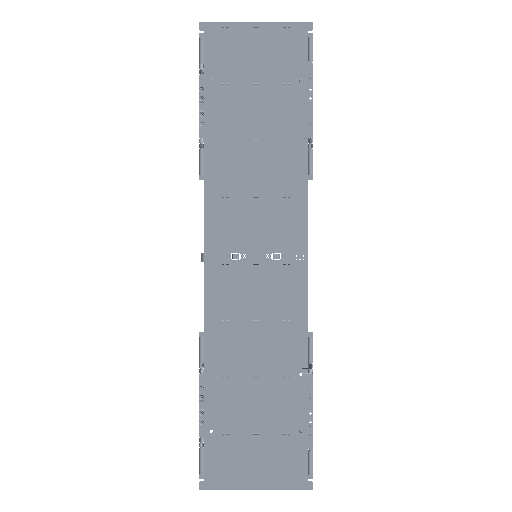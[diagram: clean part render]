
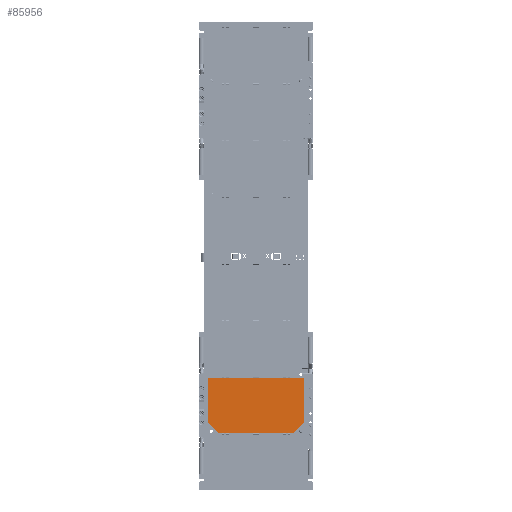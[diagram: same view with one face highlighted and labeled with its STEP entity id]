
A CAD part, front view. The second image highlights one B-rep face of the part: STEP entity #85956.
In plain terms, the highlighted planar face has unit normal (0, -1, 0).
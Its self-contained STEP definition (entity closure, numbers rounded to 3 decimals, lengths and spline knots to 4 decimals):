
#433 = LINE ( 'NONE', #141476, #120442 ) ;
#4248 = LINE ( 'NONE', #5777, #17883 ) ;
#5777 = CARTESIAN_POINT ( 'NONE',  ( -1.0605, -0.1227, -5.0315 ) ) ;
#7358 = ORIENTED_EDGE ( 'NONE', *, *, #10766, .F. ) ;
#8400 = PLANE ( 'NONE',  #240439 ) ;
#8740 = CARTESIAN_POINT ( 'NONE',  ( -0.841, -0.1227, -3.4685 ) ) ;
#8794 = DIRECTION ( 'NONE',  ( 0.707, 0., -0.707 ) ) ;
#10766 = EDGE_CURVE ( 'NONE', #139326, #257492, #116293, .T. ) ;
#12982 = CARTESIAN_POINT ( 'NONE',  ( -1.3605, -0.1227, -3.4685 ) ) ;
#14040 = ORIENTED_EDGE ( 'NONE', *, *, #164501, .T. ) ;
#16937 = EDGE_LOOP ( 'NONE', ( #55355, #93876, #249874, #66424, #90722, #30484, #278217, #7358, #66343, #14040, #274322, #140389, #120001, #292386 ) ) ;
#17883 = VECTOR ( 'NONE', #8794, 39.3701 ) ;
#19030 = DIRECTION ( 'NONE',  ( 1., 0., 0. ) ) ;
#21480 = CARTESIAN_POINT ( 'NONE',  ( 1.3605, -0.1227, -3.4685 ) ) ;
#23413 = LINE ( 'NONE', #94675, #287557 ) ;
#26889 = CARTESIAN_POINT ( 'NONE',  ( -1.3605, -0.1227, -4.7315 ) ) ;
#27648 = LINE ( 'NONE', #267921, #217608 ) ;
#30484 = ORIENTED_EDGE ( 'NONE', *, *, #305788, .T. ) ;
#31683 = CARTESIAN_POINT ( 'NONE',  ( 0.9745, -0.1227, -3.4685 ) ) ;
#35241 = LINE ( 'NONE', #108048, #284550 ) ;
#36666 = VECTOR ( 'NONE', #68982, 39.3701 ) ;
#37487 = VERTEX_POINT ( 'NONE', #189625 ) ;
#38967 = EDGE_CURVE ( 'NONE', #171020, #146179, #169483, .T. ) ;
#48594 = VECTOR ( 'NONE', #146297, 39.3701 ) ;
#49890 = CARTESIAN_POINT ( 'NONE',  ( 1.3605, -0.1227, -3.4685 ) ) ;
#54743 = CARTESIAN_POINT ( 'NONE',  ( 1.3605, -0.1227, -3.4685 ) ) ;
#55355 = ORIENTED_EDGE ( 'NONE', *, *, #38967, .T. ) ;
#55739 = EDGE_CURVE ( 'NONE', #86696, #83251, #90631, .T. ) ;
#65890 = CARTESIAN_POINT ( 'NONE',  ( -0.7745, -0.1227, -3.4685 ) ) ;
#66046 = EDGE_CURVE ( 'NONE', #251390, #232687, #92630, .T. ) ;
#66343 = ORIENTED_EDGE ( 'NONE', *, *, #79257, .F. ) ;
#66424 = ORIENTED_EDGE ( 'NONE', *, *, #219712, .T. ) ;
#67499 = EDGE_CURVE ( 'NONE', #257492, #236263, #276458, .T. ) ;
#68982 = DIRECTION ( 'NONE',  ( 1., 0., 0. ) ) ;
#71302 = VERTEX_POINT ( 'NONE', #180389 ) ;
#73446 = VERTEX_POINT ( 'NONE', #288138 ) ;
#74989 = EDGE_CURVE ( 'NONE', #71302, #83251, #35241, .T. ) ;
#79257 = EDGE_CURVE ( 'NONE', #91990, #139326, #27648, .T. ) ;
#83251 = VERTEX_POINT ( 'NONE', #8740 ) ;
#85956 = ADVANCED_FACE ( 'NONE', ( #222355 ), #8400, .T. ) ;
#86696 = VERTEX_POINT ( 'NONE', #196135 ) ;
#90631 = LINE ( 'NONE', #65890, #36666 ) ;
#90722 = ORIENTED_EDGE ( 'NONE', *, *, #66046, .T. ) ;
#91990 = VERTEX_POINT ( 'NONE', #293713 ) ;
#92630 = LINE ( 'NONE', #190290, #136929 ) ;
#93876 = ORIENTED_EDGE ( 'NONE', *, *, #103545, .T. ) ;
#94675 = CARTESIAN_POINT ( 'NONE',  ( 1.3605, -0.1227, -3.4685 ) ) ;
#101753 = CARTESIAN_POINT ( 'NONE',  ( 0.841, -0.1227, -3.4685 ) ) ;
#103545 = EDGE_CURVE ( 'NONE', #146179, #212399, #4248, .T. ) ;
#108048 = CARTESIAN_POINT ( 'NONE',  ( -0.7745, -0.1227, -3.4685 ) ) ;
#115608 = CARTESIAN_POINT ( 'NONE',  ( 0.908, -0.1227, -3.4685 ) ) ;
#116293 = LINE ( 'NONE', #210891, #205659 ) ;
#120001 = ORIENTED_EDGE ( 'NONE', *, *, #232198, .T. ) ;
#120038 = LINE ( 'NONE', #262720, #48594 ) ;
#120442 = VECTOR ( 'NONE', #281147, 39.3701 ) ;
#122185 = DIRECTION ( 'NONE',  ( 1., 0., 0. ) ) ;
#124472 = CARTESIAN_POINT ( 'NONE',  ( -1.3605, -0.1227, -4.7315 ) ) ;
#128215 = EDGE_CURVE ( 'NONE', #37487, #171020, #261779, .T. ) ;
#136929 = VECTOR ( 'NONE', #286519, 39.3701 ) ;
#139326 = VERTEX_POINT ( 'NONE', #101753 ) ;
#139888 = CARTESIAN_POINT ( 'NONE',  ( 0.7745, -0.1227, -3.4685 ) ) ;
#140389 = ORIENTED_EDGE ( 'NONE', *, *, #55739, .F. ) ;
#141476 = CARTESIAN_POINT ( 'NONE',  ( 1.0605, -0.1227, -5.0315 ) ) ;
#146179 = VERTEX_POINT ( 'NONE', #26889 ) ;
#146297 = DIRECTION ( 'NONE',  ( -1., 0., 0. ) ) ;
#149251 = DIRECTION ( 'NONE',  ( 0., 0., -1. ) ) ;
#151005 = DIRECTION ( 'NONE',  ( 0., 0., 1. ) ) ;
#151735 = CARTESIAN_POINT ( 'NONE',  ( 1.3605, -0.1227, -4.7315 ) ) ;
#152452 = VECTOR ( 'NONE', #19030, 39.3701 ) ;
#163605 = CARTESIAN_POINT ( 'NONE',  ( 1.0605, -0.1227, -5.0315 ) ) ;
#164501 = EDGE_CURVE ( 'NONE', #91990, #71302, #23413, .T. ) ;
#169483 = LINE ( 'NONE', #124472, #276754 ) ;
#169543 = DIRECTION ( 'NONE',  ( -1., 0., 0. ) ) ;
#171020 = VERTEX_POINT ( 'NONE', #223648 ) ;
#176047 = CARTESIAN_POINT ( 'NONE',  ( -1.0605, -0.1227, -5.0315 ) ) ;
#180389 = CARTESIAN_POINT ( 'NONE',  ( -0.7745, -0.1227, -3.4685 ) ) ;
#189625 = CARTESIAN_POINT ( 'NONE',  ( -0.9745, -0.1227, -3.4685 ) ) ;
#190290 = CARTESIAN_POINT ( 'NONE',  ( 1.3605, -0.1227, -4.7315 ) ) ;
#191246 = LINE ( 'NONE', #54743, #254293 ) ;
#196135 = CARTESIAN_POINT ( 'NONE',  ( -0.908, -0.1227, -3.4685 ) ) ;
#202145 = DIRECTION ( 'NONE',  ( 0., -1., 0. ) ) ;
#202642 = DIRECTION ( 'NONE',  ( -1., 0., 0. ) ) ;
#205659 = VECTOR ( 'NONE', #305517, 39.3701 ) ;
#210891 = CARTESIAN_POINT ( 'NONE',  ( 0.7745, -0.1227, -3.4685 ) ) ;
#212399 = VERTEX_POINT ( 'NONE', #176047 ) ;
#216712 = DIRECTION ( 'NONE',  ( -1., 0., 0. ) ) ;
#217608 = VECTOR ( 'NONE', #122185, 39.3701 ) ;
#219712 = EDGE_CURVE ( 'NONE', #73446, #251390, #433, .T. ) ;
#222355 = FACE_OUTER_BOUND ( 'NONE', #16937, .T. ) ;
#223648 = CARTESIAN_POINT ( 'NONE',  ( -1.3605, -0.1227, -3.4685 ) ) ;
#232198 = EDGE_CURVE ( 'NONE', #86696, #37487, #120038, .T. ) ;
#232687 = VERTEX_POINT ( 'NONE', #49890 ) ;
#236263 = VERTEX_POINT ( 'NONE', #31683 ) ;
#240439 = AXIS2_PLACEMENT_3D ( 'NONE', #12982, #202145, #151005 ) ;
#249874 = ORIENTED_EDGE ( 'NONE', *, *, #301349, .T. ) ;
#251390 = VERTEX_POINT ( 'NONE', #151735 ) ;
#254293 = VECTOR ( 'NONE', #169543, 39.3701 ) ;
#256660 = DIRECTION ( 'NONE',  ( 1., 0., 0. ) ) ;
#257492 = VERTEX_POINT ( 'NONE', #115608 ) ;
#258205 = LINE ( 'NONE', #163605, #303914 ) ;
#259099 = DIRECTION ( 'NONE',  ( -1., 0., 0. ) ) ;
#261779 = LINE ( 'NONE', #21480, #278128 ) ;
#262720 = CARTESIAN_POINT ( 'NONE',  ( -0.7745, -0.1227, -3.4685 ) ) ;
#267921 = CARTESIAN_POINT ( 'NONE',  ( 0.7745, -0.1227, -3.4685 ) ) ;
#274322 = ORIENTED_EDGE ( 'NONE', *, *, #74989, .T. ) ;
#276458 = LINE ( 'NONE', #139888, #152452 ) ;
#276754 = VECTOR ( 'NONE', #149251, 39.3701 ) ;
#278128 = VECTOR ( 'NONE', #216712, 39.3701 ) ;
#278217 = ORIENTED_EDGE ( 'NONE', *, *, #67499, .F. ) ;
#281147 = DIRECTION ( 'NONE',  ( 0.707, 0., 0.707 ) ) ;
#284550 = VECTOR ( 'NONE', #202642, 39.3701 ) ;
#286519 = DIRECTION ( 'NONE',  ( 0., 0., 1. ) ) ;
#287557 = VECTOR ( 'NONE', #259099, 39.3701 ) ;
#288138 = CARTESIAN_POINT ( 'NONE',  ( 1.0605, -0.1227, -5.0315 ) ) ;
#292386 = ORIENTED_EDGE ( 'NONE', *, *, #128215, .T. ) ;
#293713 = CARTESIAN_POINT ( 'NONE',  ( 0.7745, -0.1227, -3.4685 ) ) ;
#301349 = EDGE_CURVE ( 'NONE', #212399, #73446, #258205, .T. ) ;
#303914 = VECTOR ( 'NONE', #256660, 39.3701 ) ;
#305517 = DIRECTION ( 'NONE',  ( 1., 0., 0. ) ) ;
#305788 = EDGE_CURVE ( 'NONE', #232687, #236263, #191246, .T. ) ;
